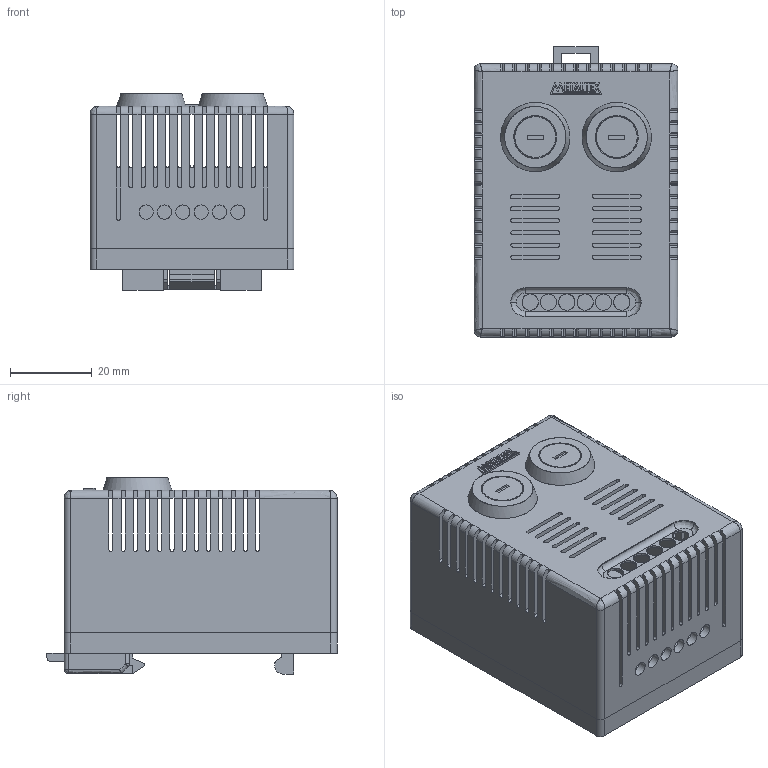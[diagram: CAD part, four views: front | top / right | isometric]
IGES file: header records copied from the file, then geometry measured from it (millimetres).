
Global section: file name: Filename.iges; native system: Open CASCADE 7.5; preprocessor: Open CASCADE IGES processor 7.5; date: 20211112.092053; units: millimetre
Bounding box: 50 x 71.17 x 48.12 mm (x, y, z)
Surface area: 34896.5 mm2 (no closed solid volume)
Topology: 0 solids, 0 shells, 767 faces, 4500 edges, 4452 vertices
Faces by surface type: plane 393, revolution 274, bspline 100
